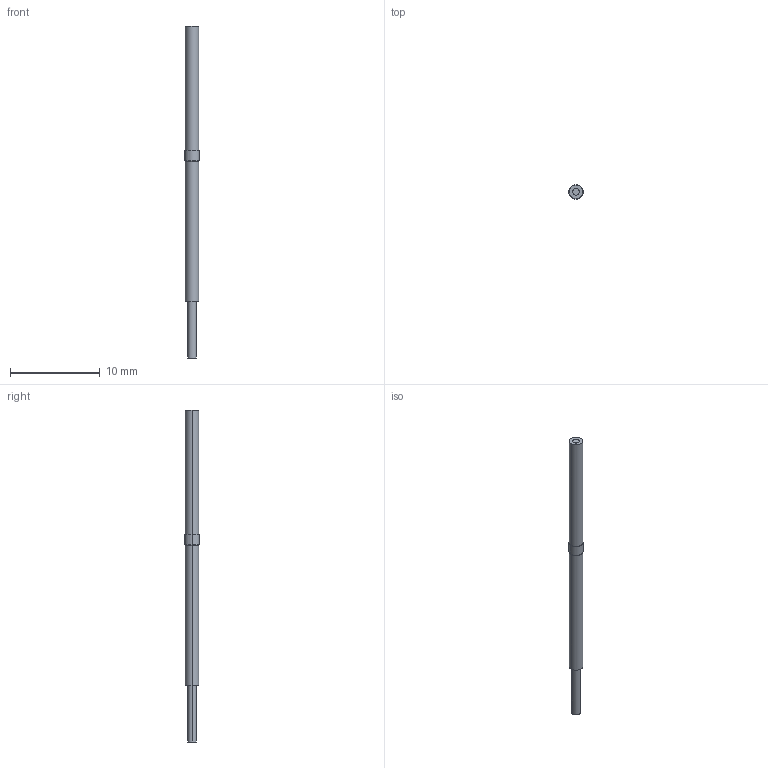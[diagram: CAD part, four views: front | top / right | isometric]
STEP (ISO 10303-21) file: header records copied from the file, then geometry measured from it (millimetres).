
FILE_DESCRIPTION((''),'2;1');
FILE_NAME('PD-R49Y','2022-07-08T',('EDY'),(''),'CREO PARAMETRIC BY PTC INC, 2018070','CREO PARAMETRIC BY PTC INC, 2018070','');
FILE_SCHEMA(('CONFIG_CONTROL_DESIGN'));
Length unit declared in the file: millimetre
Products named in the file (1): PD-R49Y
Bounding box: 1.61 x 1.61 x 37 mm (x, y, z)
Volume: 57.5 mm3; surface area: 273.5 mm2
Topology: 1 solids, 1 shells, 23 faces, 44 edges, 28 vertices
Faces by surface type: cylinder 14, plane 7, cone 2
Entity records: 938 total; most frequent: DIRECTION 118, CARTESIAN_POINT 95, ORIENTED_EDGE 88, PRESENTATION_STYLE_ASSIGNMENT 64, AXIS2_PLACEMENT_3D 51, STYLED_ITEM 45, CURVE_STYLE 44, EDGE_CURVE 44
